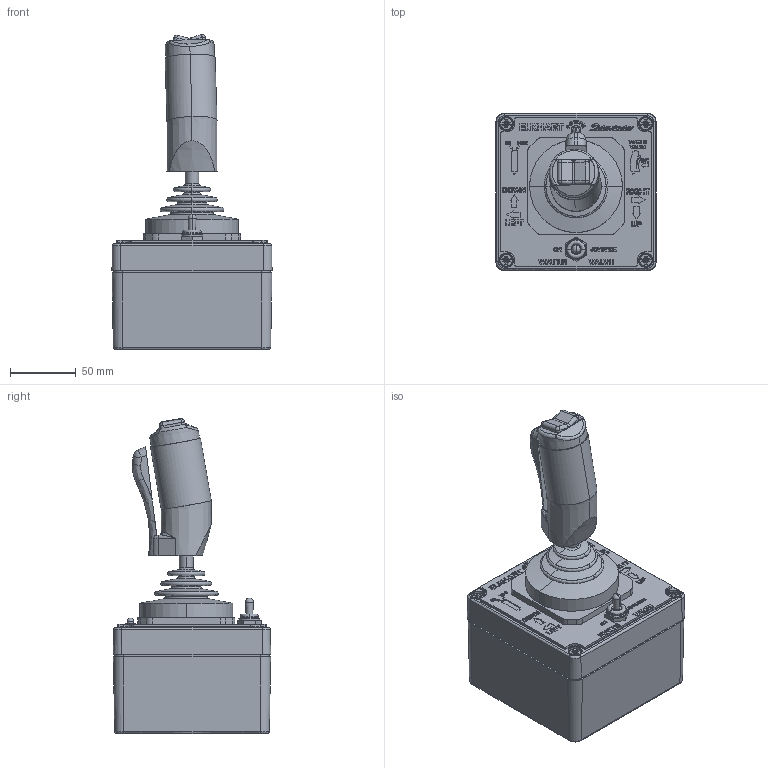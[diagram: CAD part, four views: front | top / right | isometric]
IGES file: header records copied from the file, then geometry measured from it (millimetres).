
Start section: SolidWorks IGES file using analytic representation for surfaces
Global section: file name: C:\Users\kprahl\Desktop\81172001.IGS; native system: SolidWorks 2013; preprocessor: SolidWorks 2013; author: kprahl; date: 140227.170746; units: inch
Bounding box: 121.92 x 119.89 x 239.94 mm (x, y, z)
Surface area: 98920.1 mm2 (no closed solid volume)
Topology: 0 solids, 0 shells, 1387 faces, 12917 edges, 12901 vertices
Faces by surface type: bspline 1201, revolution 186
